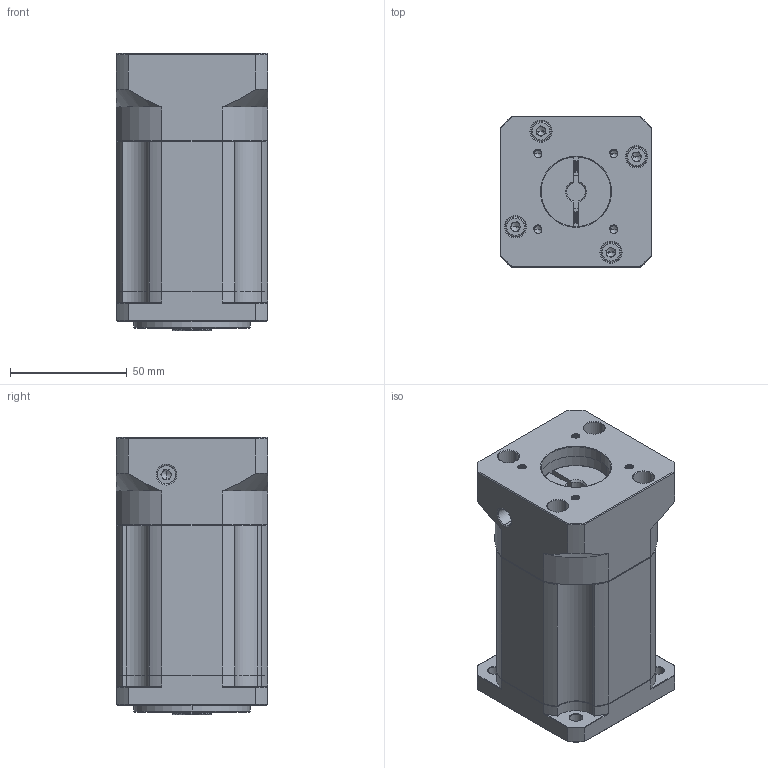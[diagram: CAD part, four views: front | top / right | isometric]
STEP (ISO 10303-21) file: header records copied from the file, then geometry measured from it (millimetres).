
FILE_DESCRIPTION (( 'STEP AP214' ), '1' );
FILE_NAME ('ZB60-K10-L3-8-30-46-M4.STEP', '2022-04-16T15:29:20', ( '' ), ( 'Microsoft' ), 'SwSTEP 2.0', 'SolidWorks 2016', '' );
FILE_SCHEMA (( 'AUTOMOTIVE_DESIGN' ));
Length unit declared in the file: millimetre
Products named in the file (1): ZB60-K10-L3-8-30-46-M4
Bounding box: 65 x 65 x 119 mm (x, y, z)
Volume: 390151.5 mm3; surface area: 61898.4 mm2
Topology: 6 solids, 6 shells, 1823 faces, 4835 edges, 3098 vertices
Faces by surface type: plane 876, cylinder 342, bspline 292, cone 279, torus 34
Entity records: 93041 total; most frequent: CARTESIAN_POINT 29831, ORIENTED_EDGE 9614, DIRECTION 7965, EDGE_CURVE 4807, VERTEX_POINT 3098, LINE 2961, VECTOR 2961, AXIS2_PLACEMENT_3D 2502
